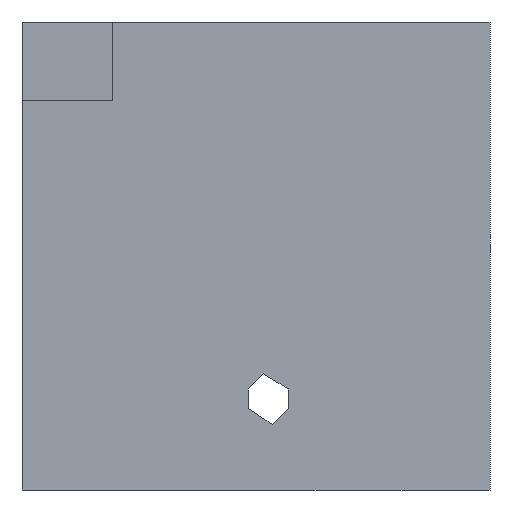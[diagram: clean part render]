
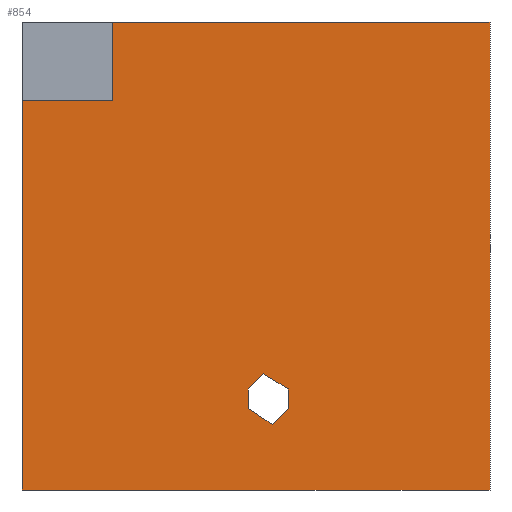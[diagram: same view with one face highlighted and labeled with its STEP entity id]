
A CAD part, front view. The second image highlights one B-rep face of the part: STEP entity #854.
In plain terms, the highlighted planar face has unit normal (0, -1, 0).
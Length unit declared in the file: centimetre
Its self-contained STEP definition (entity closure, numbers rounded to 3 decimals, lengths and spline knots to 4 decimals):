
#27 = CARTESIAN_POINT ( 'NONE',  ( 569.0284, 0., 215.8178 ) ) ;
#31 = VECTOR ( 'NONE', #1023, 100. ) ;
#32 = VECTOR ( 'NONE', #351, 100. ) ;
#36 = EDGE_CURVE ( 'NONE', #930, #633, #928, .T. ) ;
#41 = VERTEX_POINT ( 'NONE', #1139 ) ;
#71 = CARTESIAN_POINT ( 'NONE',  ( 0., 0., 832.5096 ) ) ;
#83 = DIRECTION ( 'NONE',  ( -1., 0., 0. ) ) ;
#103 = VERTEX_POINT ( 'NONE', #71 ) ;
#109 = LINE ( 'NONE', #436, #116 ) ;
#116 = VECTOR ( 'NONE', #748, 100. ) ;
#117 = EDGE_CURVE ( 'NONE', #103, #542, #1051, .T. ) ;
#149 = LINE ( 'NONE', #584, #32 ) ;
#171 = CARTESIAN_POINT ( 'NONE',  ( 193.2141, 0., 832.5096 ) ) ;
#174 = CARTESIAN_POINT ( 'NONE',  ( 569.0284, 0., 174.5443 ) ) ;
#180 = CARTESIAN_POINT ( 'NONE',  ( 0., 0., 1000. ) ) ;
#202 = EDGE_CURVE ( 'NONE', #446, #930, #455, .T. ) ;
#220 = ORIENTED_EDGE ( 'NONE', *, *, #317, .T. ) ;
#221 = LINE ( 'NONE', #875, #993 ) ;
#238 = VECTOR ( 'NONE', #1059, 100. ) ;
#244 = EDGE_LOOP ( 'NONE', ( #528, #1090, #751, #220, #1076, #758 ) ) ;
#265 = CARTESIAN_POINT ( 'NONE',  ( 515.8871, 0., 248.0031 ) ) ;
#279 = DIRECTION ( 'NONE',  ( 0.707, 0., 0.707 ) ) ;
#280 = VERTEX_POINT ( 'NONE', #421 ) ;
#296 = LINE ( 'NONE', #845, #238 ) ;
#305 = DIRECTION ( 'NONE',  ( 0.855, 0., -0.518 ) ) ;
#317 = EDGE_CURVE ( 'NONE', #542, #1180, #109, .T. ) ;
#335 = LINE ( 'NONE', #447, #900 ) ;
#343 = EDGE_CURVE ( 'NONE', #981, #103, #221, .T. ) ;
#348 = CARTESIAN_POINT ( 'NONE',  ( 483.7019, 0., 174.5443 ) ) ;
#351 = DIRECTION ( 'NONE',  ( -0.828, 0., 0.561 ) ) ;
#356 = ORIENTED_EDGE ( 'NONE', *, *, #450, .T. ) ;
#361 = CARTESIAN_POINT ( 'NONE',  ( 483.7019, 0., 174.5443 ) ) ;
#367 = CARTESIAN_POINT ( 'NONE',  ( 0., 0., 0. ) ) ;
#391 = LINE ( 'NONE', #1150, #974 ) ;
#397 = CARTESIAN_POINT ( 'NONE',  ( 483.7019, 0., 215.8178 ) ) ;
#421 = CARTESIAN_POINT ( 'NONE',  ( 534.5367, 0., 140.0527 ) ) ;
#428 = VECTOR ( 'NONE', #1042, 100. ) ;
#436 = CARTESIAN_POINT ( 'NONE',  ( 0., 0., 0. ) ) ;
#446 = VERTEX_POINT ( 'NONE', #361 ) ;
#447 = CARTESIAN_POINT ( 'NONE',  ( 569.0284, 0., 174.5443 ) ) ;
#450 = EDGE_CURVE ( 'NONE', #537, #732, #1305, .T. ) ;
#455 = LINE ( 'NONE', #348, #31 ) ;
#480 = EDGE_CURVE ( 'NONE', #732, #280, #335, .T. ) ;
#481 = FACE_BOUND ( 'NONE', #1086, .T. ) ;
#528 = ORIENTED_EDGE ( 'NONE', *, *, #972, .F. ) ;
#537 = VERTEX_POINT ( 'NONE', #27 ) ;
#542 = VERTEX_POINT ( 'NONE', #367 ) ;
#548 = VECTOR ( 'NONE', #787, 100. ) ;
#571 = CARTESIAN_POINT ( 'NONE',  ( 569.0284, 0., 215.8178 ) ) ;
#584 = CARTESIAN_POINT ( 'NONE',  ( 534.5367, 0., 140.0527 ) ) ;
#607 = CARTESIAN_POINT ( 'NONE',  ( 0., 0., 1000. ) ) ;
#616 = CARTESIAN_POINT ( 'NONE',  ( 193.2141, 0., 1000. ) ) ;
#633 = VERTEX_POINT ( 'NONE', #265 ) ;
#653 = EDGE_CURVE ( 'NONE', #963, #41, #1138, .T. ) ;
#670 = DIRECTION ( 'NONE',  ( -0.707, 0., -0.707 ) ) ;
#691 = PLANE ( 'NONE',  #1057 ) ;
#694 = CARTESIAN_POINT ( 'NONE',  ( 1000., 0., 0. ) ) ;
#704 = CARTESIAN_POINT ( 'NONE',  ( 0., 0., 1000. ) ) ;
#732 = VERTEX_POINT ( 'NONE', #174 ) ;
#748 = DIRECTION ( 'NONE',  ( 1., 0., 0. ) ) ;
#751 = ORIENTED_EDGE ( 'NONE', *, *, #117, .T. ) ;
#758 = ORIENTED_EDGE ( 'NONE', *, *, #653, .F. ) ;
#764 = VECTOR ( 'NONE', #1049, 100. ) ;
#786 = EDGE_CURVE ( 'NONE', #280, #446, #149, .T. ) ;
#787 = DIRECTION ( 'NONE',  ( 0., 0., -1. ) ) ;
#817 = CARTESIAN_POINT ( 'NONE',  ( 1000., 0., 1000. ) ) ;
#845 = CARTESIAN_POINT ( 'NONE',  ( 193.2141, 0., 832.5096 ) ) ;
#854 = ADVANCED_FACE ( 'NONE', ( #481, #1317 ), #691, .F. ) ;
#875 = CARTESIAN_POINT ( 'NONE',  ( 193.2141, 0., 832.5096 ) ) ;
#900 = VECTOR ( 'NONE', #670, 100. ) ;
#923 = DIRECTION ( 'NONE',  ( 0., 1., 0. ) ) ;
#928 = LINE ( 'NONE', #1247, #979 ) ;
#930 = VERTEX_POINT ( 'NONE', #397 ) ;
#939 = LINE ( 'NONE', #817, #764 ) ;
#963 = VERTEX_POINT ( 'NONE', #616 ) ;
#972 = EDGE_CURVE ( 'NONE', #981, #963, #296, .T. ) ;
#974 = VECTOR ( 'NONE', #305, 100. ) ;
#979 = VECTOR ( 'NONE', #279, 100. ) ;
#981 = VERTEX_POINT ( 'NONE', #171 ) ;
#993 = VECTOR ( 'NONE', #83, 100. ) ;
#1023 = DIRECTION ( 'NONE',  ( 0., 0., 1. ) ) ;
#1041 = DIRECTION ( 'NONE',  ( 1., 0., 0. ) ) ;
#1042 = DIRECTION ( 'NONE',  ( 0., 0., -1. ) ) ;
#1049 = DIRECTION ( 'NONE',  ( 0., 0., -1. ) ) ;
#1051 = LINE ( 'NONE', #607, #428 ) ;
#1057 = AXIS2_PLACEMENT_3D ( 'NONE', #704, #923, #1340 ) ;
#1059 = DIRECTION ( 'NONE',  ( 0., 0., 1. ) ) ;
#1076 = ORIENTED_EDGE ( 'NONE', *, *, #1394, .F. ) ;
#1086 = EDGE_LOOP ( 'NONE', ( #1330, #356, #1261, #1279, #1211, #1349 ) ) ;
#1090 = ORIENTED_EDGE ( 'NONE', *, *, #343, .T. ) ;
#1138 = LINE ( 'NONE', #180, #1204 ) ;
#1139 = CARTESIAN_POINT ( 'NONE',  ( 1000., 0., 1000. ) ) ;
#1150 = CARTESIAN_POINT ( 'NONE',  ( 515.8871, 0., 248.0031 ) ) ;
#1180 = VERTEX_POINT ( 'NONE', #694 ) ;
#1204 = VECTOR ( 'NONE', #1041, 100. ) ;
#1211 = ORIENTED_EDGE ( 'NONE', *, *, #202, .T. ) ;
#1247 = CARTESIAN_POINT ( 'NONE',  ( 483.7019, 0., 215.8178 ) ) ;
#1261 = ORIENTED_EDGE ( 'NONE', *, *, #480, .T. ) ;
#1279 = ORIENTED_EDGE ( 'NONE', *, *, #786, .T. ) ;
#1305 = LINE ( 'NONE', #571, #548 ) ;
#1317 = FACE_OUTER_BOUND ( 'NONE', #244, .T. ) ;
#1330 = ORIENTED_EDGE ( 'NONE', *, *, #1360, .T. ) ;
#1340 = DIRECTION ( 'NONE',  ( 0., 0., 1. ) ) ;
#1349 = ORIENTED_EDGE ( 'NONE', *, *, #36, .T. ) ;
#1360 = EDGE_CURVE ( 'NONE', #633, #537, #391, .T. ) ;
#1394 = EDGE_CURVE ( 'NONE', #41, #1180, #939, .T. ) ;
